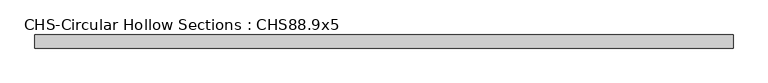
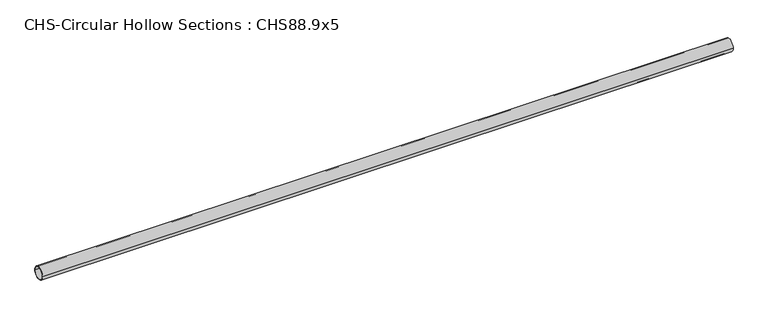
"""IFC4 building model written with IfcOpenShell, lengths in millimetres: beam geometry, CHS-Circular Hollow Sections : CHS88.9x5."""

from ifc_helpers import new_model, si_unit, point, frame, origin, origin_2d, place, context, project, spatial, circle_curve, trimmed, segment, composite_curve, outline, extrude, source, transform, mapped, element, save


def chs_circular_hollow_sections_chs88_9x5_b0df0a75(model_context):
    return source(origin(), model_context, "Body", "SweptSolid", [
        extrude(outline(composite_curve([segment(trimmed(circle_curve(origin_2d(), 44.45), [point((-44.45, 0.0))], [point((44.45, 0.0))], False, "CARTESIAN"), True, "CONTINUOUS"), segment(trimmed(circle_curve(origin_2d(), 44.45), [point((44.45, 0.0))], [point((-44.45, 0.0))], False, "CARTESIAN"), True, "CONTINUOUS")], self_intersect=False), holes=[composite_curve([segment(trimmed(circle_curve(origin_2d(), 39.45), [point((39.45, 0.0))], [point((-39.45, 0.0))], True, "CARTESIAN"), True, "CONTINUOUS"), segment(trimmed(circle_curve(origin_2d(), 39.45), [point((-39.45, 0.0))], [point((39.45, 0.0))], True, "CARTESIAN"), True, "CONTINUOUS")], self_intersect=False)]), frame((-2537.0, 0.0, 0.0), z_axis=(1.0, 0.0, 0.0), x_axis=(0.0, 1.0, 0.0)), (0.0, 0.0, 1.0), 4741.0),
    ])


if __name__ == "__main__":
    model = new_model("IFC4")
    model_context = context("Model", 3, world=origin())
    ifc_project = project(units=[si_unit("LENGTHUNIT", "METRE", prefix="MILLI")], contexts=[model_context])
    site = spatial("IfcSite", under=ifc_project)
    building = spatial("IfcBuilding", under=site)
    placement = place(None, origin())
    chs_circular_hollow_sections_chs88_9x5_shape = chs_circular_hollow_sections_chs88_9x5_b0df0a75(model_context)
    element("IfcBeam", 1, ObjectType="CHS-Circular Hollow Sections : CHS88.9x5", at=placement, inside=building, context=model_context, shape_type="MappedRepresentation", body=[
        mapped(chs_circular_hollow_sections_chs88_9x5_shape, transform((0.0, 0.0, 0.0), x_axis=(1.0, 0.0, 0.0), y_axis=(0.0, 1.0, 0.0), z_axis=(0.0, 0.0, 1.0))),
    ])
    save(model, "model.ifc")
